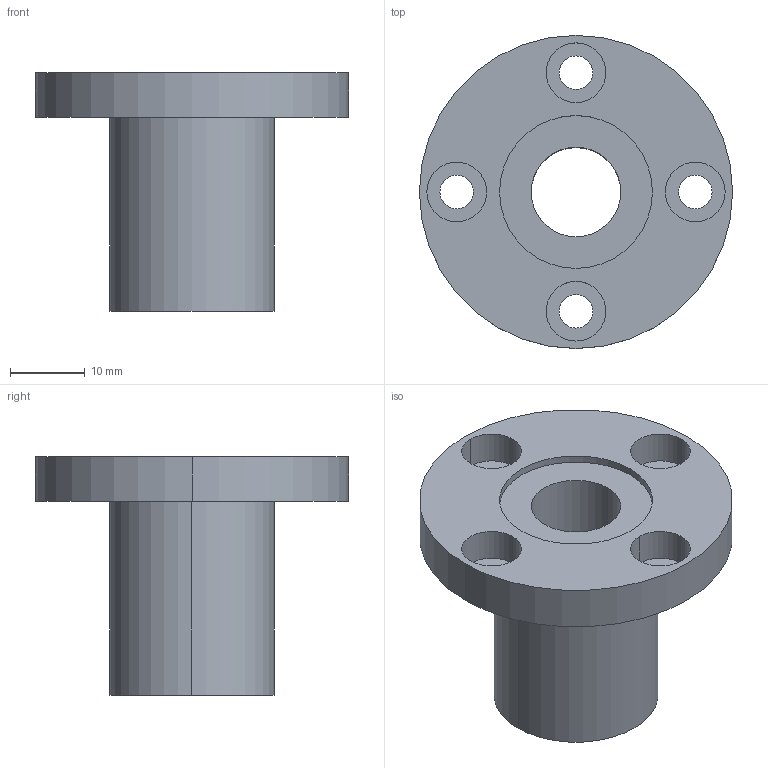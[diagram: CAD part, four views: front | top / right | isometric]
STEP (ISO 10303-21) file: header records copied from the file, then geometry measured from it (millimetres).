
FILE_DESCRIPTION((''),'2;1');
FILE_NAME('C:\Documents and Settings\ｿﾀﾀ蠑ｷ1\ｹﾙﾅﾁ ﾈｭｸ饅\ｺﾎﾇｰﾆﾄﾀﾏ\ﾁｦﾇｰ\LMEF__UU\LMEF12UU.stp','2005-06-15T10:49:54',('ｿﾀﾀ蠑ｷ1'),(''),'Autodesk Inventor 9','Autodesk Inventor 9','');
FILE_SCHEMA(('AUTOMOTIVE_DESIGN { 1 0 10303 214 1 1 1 1 }'));
Length unit declared in the file: millimetre
Products named in the file (1): LMEF__(L)
Bounding box: 42 x 42 x 32 mm (x, y, z)
Volume: 13156.7 mm3; surface area: 6798.6 mm2
Topology: 1 solids, 1 shells, 35 faces, 78 edges, 52 vertices
Faces by surface type: bspline 20, cylinder 10, plane 5
Entity records: 1255 total; most frequent: CARTESIAN_POINT 450, DIRECTION 162, ORIENTED_EDGE 156, EDGE_CURVE 78, AXIS2_PLACEMENT_3D 68, VERTEX_POINT 52, CIRCLE 52, EDGE_LOOP 52
